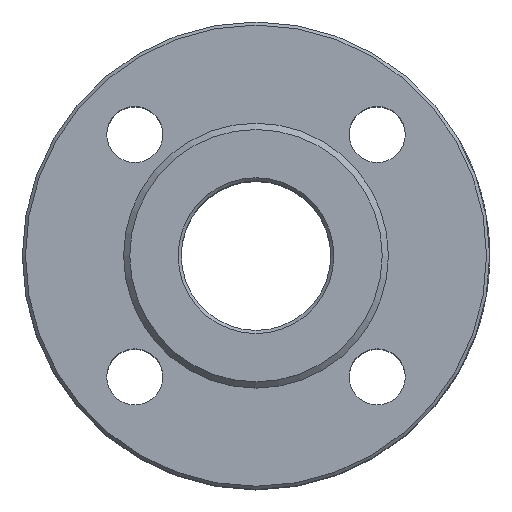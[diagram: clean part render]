
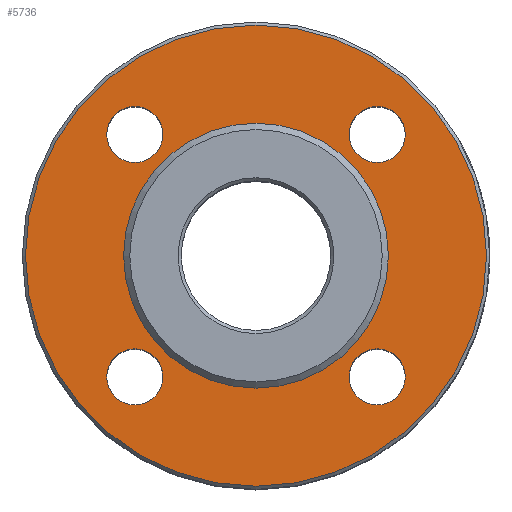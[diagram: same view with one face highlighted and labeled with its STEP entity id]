
A CAD part, top view. The second image highlights one B-rep face of the part: STEP entity #5736.
In plain terms, the highlighted planar face has unit normal (0, 0, 1).
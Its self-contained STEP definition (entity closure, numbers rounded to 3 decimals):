
#220=FACE_BOUND('',#1113,.T.);
#221=FACE_BOUND('',#1114,.T.);
#222=FACE_BOUND('',#1115,.T.);
#223=FACE_BOUND('',#1116,.T.);
#224=FACE_BOUND('',#1117,.T.);
#460=PLANE('',#6292);
#741=FACE_OUTER_BOUND('',#1112,.T.);
#1112=EDGE_LOOP('',(#4845));
#1113=EDGE_LOOP('',(#4846));
#1114=EDGE_LOOP('',(#4847));
#1115=EDGE_LOOP('',(#4848));
#1116=EDGE_LOOP('',(#4849));
#1117=EDGE_LOOP('',(#4850));
#1582=CIRCLE('',#6291,74.);
#1583=CIRCLE('',#6293,9.);
#1584=CIRCLE('',#6294,9.);
#1585=CIRCLE('',#6295,9.);
#1586=CIRCLE('',#6296,42.5);
#1587=CIRCLE('',#6297,9.);
#2700=VERTEX_POINT('',#11667);
#2701=VERTEX_POINT('',#11671);
#2702=VERTEX_POINT('',#11673);
#2703=VERTEX_POINT('',#11675);
#2704=VERTEX_POINT('',#11677);
#2705=VERTEX_POINT('',#11679);
#3427=EDGE_CURVE('',#2700,#2700,#1582,.T.);
#3428=EDGE_CURVE('',#2701,#2701,#1583,.T.);
#3429=EDGE_CURVE('',#2702,#2702,#1584,.T.);
#3430=EDGE_CURVE('',#2703,#2703,#1585,.T.);
#3431=EDGE_CURVE('',#2704,#2704,#1586,.T.);
#3432=EDGE_CURVE('',#2705,#2705,#1587,.T.);
#4845=ORIENTED_EDGE('',*,*,#3427,.T.);
#4846=ORIENTED_EDGE('',*,*,#3428,.T.);
#4847=ORIENTED_EDGE('',*,*,#3429,.T.);
#4848=ORIENTED_EDGE('',*,*,#3430,.T.);
#4849=ORIENTED_EDGE('',*,*,#3431,.T.);
#4850=ORIENTED_EDGE('',*,*,#3432,.T.);
#5736=ADVANCED_FACE('',(#741,#220,#221,#222,#223,#224),#460,.F.);
#6291=AXIS2_PLACEMENT_3D('',#11669,#7666,#7667);
#6292=AXIS2_PLACEMENT_3D('',#11670,#7668,#7669);
#6293=AXIS2_PLACEMENT_3D('',#11672,#7670,#7671);
#6294=AXIS2_PLACEMENT_3D('',#11674,#7672,#7673);
#6295=AXIS2_PLACEMENT_3D('',#11676,#7674,#7675);
#6296=AXIS2_PLACEMENT_3D('',#11678,#7676,#7677);
#6297=AXIS2_PLACEMENT_3D('',#11680,#7678,#7679);
#7666=DIRECTION('center_axis',(0.,0.,1.));
#7667=DIRECTION('ref_axis',(0.,1.,0.));
#7668=DIRECTION('center_axis',(0.,0.,-1.));
#7669=DIRECTION('ref_axis',(-1.,0.,0.));
#7670=DIRECTION('center_axis',(0.,0.,-1.));
#7671=DIRECTION('ref_axis',(-1.,0.,0.));
#7672=DIRECTION('center_axis',(0.,0.,-1.));
#7673=DIRECTION('ref_axis',(-1.,0.,0.));
#7674=DIRECTION('center_axis',(0.,0.,-1.));
#7675=DIRECTION('ref_axis',(-1.,0.,0.));
#7676=DIRECTION('center_axis',(0.,0.,-1.));
#7677=DIRECTION('ref_axis',(1.,0.,0.));
#7678=DIRECTION('center_axis',(0.,0.,-1.));
#7679=DIRECTION('ref_axis',(-1.,0.,0.));
#11667=CARTESIAN_POINT('',(0.,-74.,58.));
#11669=CARTESIAN_POINT('Origin',(0.,0.,58.));
#11670=CARTESIAN_POINT('Origin',(0.,0.,58.));
#11671=CARTESIAN_POINT('',(-29.891,-38.891,58.));
#11672=CARTESIAN_POINT('Origin',(-38.891,-38.891,58.));
#11673=CARTESIAN_POINT('',(47.891,-38.891,58.));
#11674=CARTESIAN_POINT('Origin',(38.891,-38.891,58.));
#11675=CARTESIAN_POINT('',(47.891,38.891,58.));
#11676=CARTESIAN_POINT('Origin',(38.891,38.891,58.));
#11677=CARTESIAN_POINT('',(-42.5,0.,58.));
#11678=CARTESIAN_POINT('Origin',(0.,0.,58.));
#11679=CARTESIAN_POINT('',(-29.891,38.891,58.));
#11680=CARTESIAN_POINT('Origin',(-38.891,38.891,58.));
